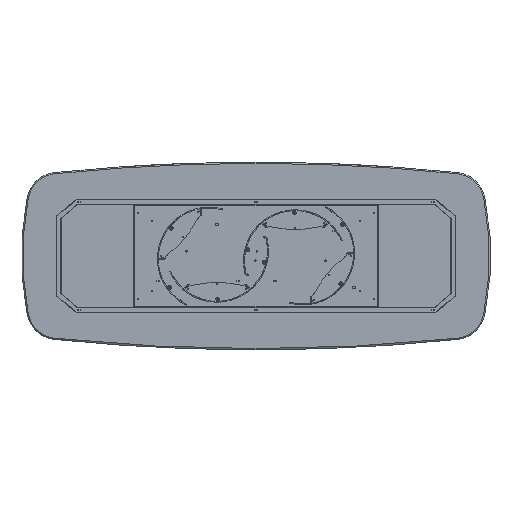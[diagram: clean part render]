
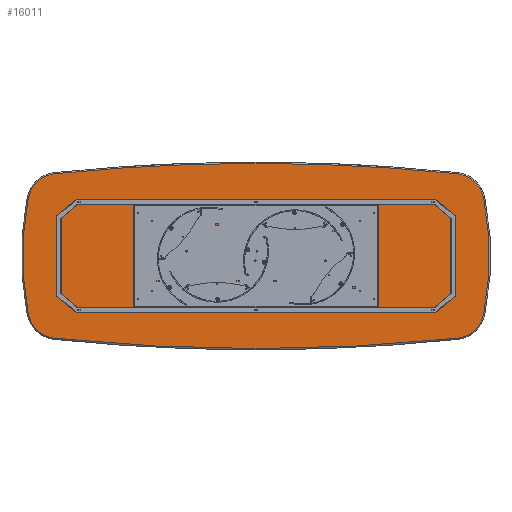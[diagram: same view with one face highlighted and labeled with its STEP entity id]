
A CAD part, front view. The second image highlights one B-rep face of the part: STEP entity #16011.
In plain terms, the highlighted planar face has unit normal (0, -1, 0).
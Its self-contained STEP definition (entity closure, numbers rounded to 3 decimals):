
#418 = CARTESIAN_POINT ( 'NONE',  ( -1454.991, 0., 372.386 ) ) ;
#877 = ORIENTED_EDGE ( 'NONE', *, *, #4989, .T. ) ;
#1172 = CARTESIAN_POINT ( 'NONE',  ( -1286.52, 0., 525.576 ) ) ;
#1208 = EDGE_CURVE ( 'NONE', #20868, #2738, #17447, .T. ) ;
#1400 = VERTEX_POINT ( 'NONE', #1172 ) ;
#1467 = AXIS2_PLACEMENT_3D ( 'NONE', #8368, #22465, #17309 ) ;
#1476 = FACE_OUTER_BOUND ( 'NONE', #8451, .T. ) ;
#1502 = ORIENTED_EDGE ( 'NONE', *, *, #10265, .T. ) ;
#2047 = CARTESIAN_POINT ( 'NONE',  ( 1266.747, 0., -334.597 ) ) ;
#2120 = DIRECTION ( 'NONE',  ( 0., -1., 0. ) ) ;
#2323 = CARTESIAN_POINT ( 'NONE',  ( 1266.747, 0., 334.597 ) ) ;
#2412 = EDGE_CURVE ( 'NONE', #22507, #1400, #18380, .T. ) ;
#2454 = CIRCLE ( 'NONE', #7922, 192. ) ;
#2456 = DIRECTION ( 'NONE',  ( 0., -1., 0. ) ) ;
#2487 = AXIS2_PLACEMENT_3D ( 'NONE', #21440, #12621, #21556 ) ;
#2738 = VERTEX_POINT ( 'NONE', #17916 ) ;
#3138 = ORIENTED_EDGE ( 'NONE', *, *, #16518, .T. ) ;
#3581 = ORIENTED_EDGE ( 'NONE', *, *, #19230, .T. ) ;
#3609 = DIRECTION ( 'NONE',  ( 0., 0., 1. ) ) ;
#3795 = ORIENTED_EDGE ( 'NONE', *, *, #2412, .T. ) ;
#3817 = DIRECTION ( 'NONE',  ( 0., 0., 1. ) ) ;
#3949 = CIRCLE ( 'NONE', #2487, 12492. ) ;
#4026 = AXIS2_PLACEMENT_3D ( 'NONE', #4558, #7765, #4229 ) ;
#4229 = DIRECTION ( 'NONE',  ( 0., 0., 1. ) ) ;
#4558 = CARTESIAN_POINT ( 'NONE',  ( -400., 0., 0. ) ) ;
#4989 = EDGE_CURVE ( 'NONE', #2738, #22531, #15470, .T. ) ;
#5217 = CARTESIAN_POINT ( 'NONE',  ( -1286.52, 0., -525.576 ) ) ;
#6061 = CARTESIAN_POINT ( 'NONE',  ( 1454.991, 0., -372.386 ) ) ;
#6869 = PLANE ( 'NONE',  #1467 ) ;
#7715 = DIRECTION ( 'NONE',  ( 0., 0., 1. ) ) ;
#7765 = DIRECTION ( 'NONE',  ( 0., -1., 0. ) ) ;
#7922 = AXIS2_PLACEMENT_3D ( 'NONE', #15967, #10916, #3817 ) ;
#8268 = CARTESIAN_POINT ( 'NONE',  ( 1286.52, 0., 525.576 ) ) ;
#8368 = CARTESIAN_POINT ( 'NONE',  ( -200., 0., 5950. ) ) ;
#8451 = EDGE_LOOP ( 'NONE', ( #877, #3138, #12912, #14450, #3581, #1502, #3795, #20981, #19929 ) ) ;
#9090 = DIRECTION ( 'NONE',  ( 0., -1., 0. ) ) ;
#9147 = DIRECTION ( 'NONE',  ( 0., -1., 0. ) ) ;
#9212 = EDGE_CURVE ( 'NONE', #1400, #20868, #2454, .T. ) ;
#9521 = CARTESIAN_POINT ( 'NONE',  ( 1286.52, 0., -525.576 ) ) ;
#9828 = DIRECTION ( 'NONE',  ( 0., 0., 1. ) ) ;
#9834 = VERTEX_POINT ( 'NONE', #6061 ) ;
#9992 = AXIS2_PLACEMENT_3D ( 'NONE', #2323, #9090, #21696 ) ;
#10265 = EDGE_CURVE ( 'NONE', #12550, #22507, #3949, .T. ) ;
#10916 = DIRECTION ( 'NONE',  ( 0., -1., 0. ) ) ;
#11561 = CARTESIAN_POINT ( 'NONE',  ( 0., 0., -11900. ) ) ;
#11825 = VERTEX_POINT ( 'NONE', #19379 ) ;
#12112 = CIRCLE ( 'NONE', #15405, 12492. ) ;
#12550 = VERTEX_POINT ( 'NONE', #8268 ) ;
#12621 = DIRECTION ( 'NONE',  ( 0., -1., 0. ) ) ;
#12912 = ORIENTED_EDGE ( 'NONE', *, *, #14682, .T. ) ;
#13382 = CARTESIAN_POINT ( 'NONE',  ( 0., 0., 11900. ) ) ;
#14345 = AXIS2_PLACEMENT_3D ( 'NONE', #11561, #15109, #15223 ) ;
#14450 = ORIENTED_EDGE ( 'NONE', *, *, #14803, .T. ) ;
#14682 = EDGE_CURVE ( 'NONE', #15859, #9834, #19065, .T. ) ;
#14803 = EDGE_CURVE ( 'NONE', #9834, #11825, #18652, .T. ) ;
#15109 = DIRECTION ( 'NONE',  ( 0., -1., 0. ) ) ;
#15223 = DIRECTION ( 'NONE',  ( 0., 0., 1. ) ) ;
#15405 = AXIS2_PLACEMENT_3D ( 'NONE', #13382, #20263, #9828 ) ;
#15470 = CIRCLE ( 'NONE', #16572, 192. ) ;
#15754 = CARTESIAN_POINT ( 'NONE',  ( 400., 0., 0. ) ) ;
#15859 = VERTEX_POINT ( 'NONE', #9521 ) ;
#15967 = CARTESIAN_POINT ( 'NONE',  ( -1266.747, 0., 334.597 ) ) ;
#16011 = ADVANCED_FACE ( 'NONE', ( #1476 ), #6869, .F. ) ;
#16518 = EDGE_CURVE ( 'NONE', #22531, #15859, #12112, .T. ) ;
#16572 = AXIS2_PLACEMENT_3D ( 'NONE', #18383, #2456, #7715 ) ;
#17309 = DIRECTION ( 'NONE',  ( 0., 0., 1. ) ) ;
#17447 = CIRCLE ( 'NONE', #18917, 1892. ) ;
#17916 = CARTESIAN_POINT ( 'NONE',  ( -1454.991, 0., -372.386 ) ) ;
#17977 = DIRECTION ( 'NONE',  ( 0., 0., 1. ) ) ;
#18380 = CIRCLE ( 'NONE', #14345, 12492. ) ;
#18383 = CARTESIAN_POINT ( 'NONE',  ( -1266.747, 0., -334.597 ) ) ;
#18652 = CIRCLE ( 'NONE', #4026, 1892. ) ;
#18765 = CARTESIAN_POINT ( 'NONE',  ( 0., 0., 592. ) ) ;
#18917 = AXIS2_PLACEMENT_3D ( 'NONE', #15754, #2120, #3609 ) ;
#19065 = CIRCLE ( 'NONE', #21626, 192. ) ;
#19230 = EDGE_CURVE ( 'NONE', #11825, #12550, #20618, .T. ) ;
#19379 = CARTESIAN_POINT ( 'NONE',  ( 1454.991, 0., 372.386 ) ) ;
#19929 = ORIENTED_EDGE ( 'NONE', *, *, #1208, .T. ) ;
#20263 = DIRECTION ( 'NONE',  ( 0., -1., 0. ) ) ;
#20618 = CIRCLE ( 'NONE', #9992, 192. ) ;
#20868 = VERTEX_POINT ( 'NONE', #418 ) ;
#20981 = ORIENTED_EDGE ( 'NONE', *, *, #9212, .T. ) ;
#21440 = CARTESIAN_POINT ( 'NONE',  ( 0., 0., -11900. ) ) ;
#21556 = DIRECTION ( 'NONE',  ( 0., 0., 1. ) ) ;
#21626 = AXIS2_PLACEMENT_3D ( 'NONE', #2047, #9147, #17977 ) ;
#21696 = DIRECTION ( 'NONE',  ( 0., 0., 1. ) ) ;
#22465 = DIRECTION ( 'NONE',  ( 0., 1., 0. ) ) ;
#22507 = VERTEX_POINT ( 'NONE', #18765 ) ;
#22531 = VERTEX_POINT ( 'NONE', #5217 ) ;
